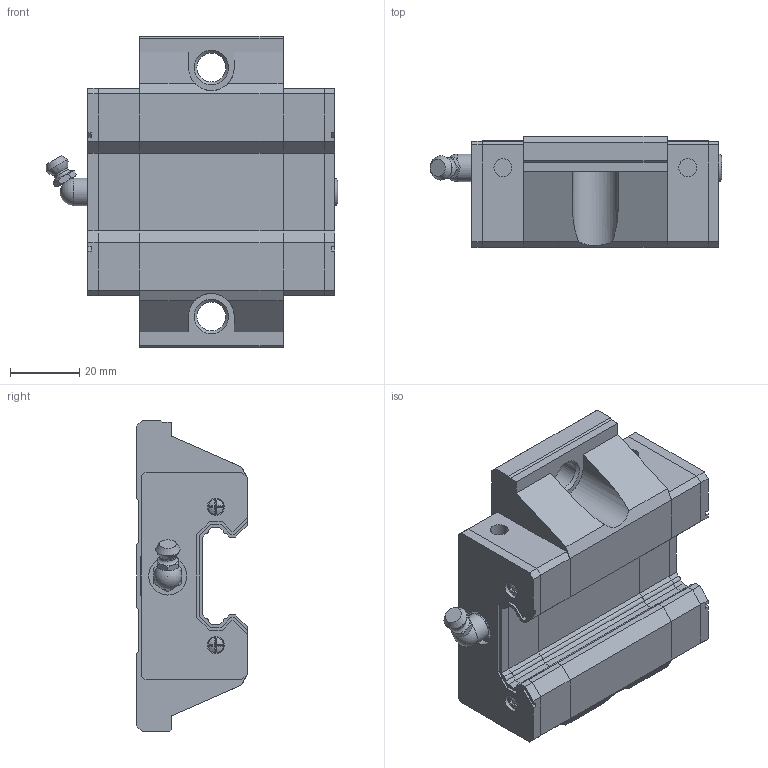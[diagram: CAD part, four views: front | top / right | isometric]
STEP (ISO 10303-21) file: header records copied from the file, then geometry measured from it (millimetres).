
FILE_DESCRIPTION(('FreeCAD Model'),'2;1');
FILE_NAME('Open CASCADE Shape Model','2024-12-05T16:37:41',('Author'),( ''),'Open CASCADE STEP processor 7.6','FreeCAD','Unknown');
FILE_SCHEMA(('AUTOMOTIVE_DESIGN { 1 0 10303 214 1 1 1 1 }'));
Length unit declared in the file: millimetre
Products named in the file (7): EW30SC; _GEW30SC_slider; _GES30_C; _GES30_P; _GH30_SCREW008; _GH30_BOLT002; _GH30-_G002
Assembly tree (11 placements, depth 2):
  EW30SC
    _GEW30SC_slider
    _GES30_C  x2
    _GES30_P  x2
    _GH30_SCREW008  x4
    _GH30_BOLT002
    _GH30-_G002
Bounding box: 84.3 x 32 x 90 mm (x, y, z)
Volume: 128397.1 mm3; surface area: 35963.8 mm2
Topology: 11 solids, 11 shells, 384 faces, 1008 edges, 662 vertices
Faces by surface type: plane 301, cylinder 51, cone 20, torus 6, sphere 5, bspline 1
Full cylindrical faces by diameter (mm): 2.2 x4, 4.5 x1, 4.65 x4, 5 x4, 5.2 x4, 6 x2, 6.5 x2, 7.1 x2, 8 x1, 8.2 x1, 8.376 x2, 11 x2
Entity records: 7331 total; most frequent: CARTESIAN_POINT 1435, ORIENTED_EDGE 1198, DIRECTION 1125, EDGE_CURVE 599, LINE 433, VECTOR 433, VERTEX_POINT 392, AXIS2_PLACEMENT_3D 346
